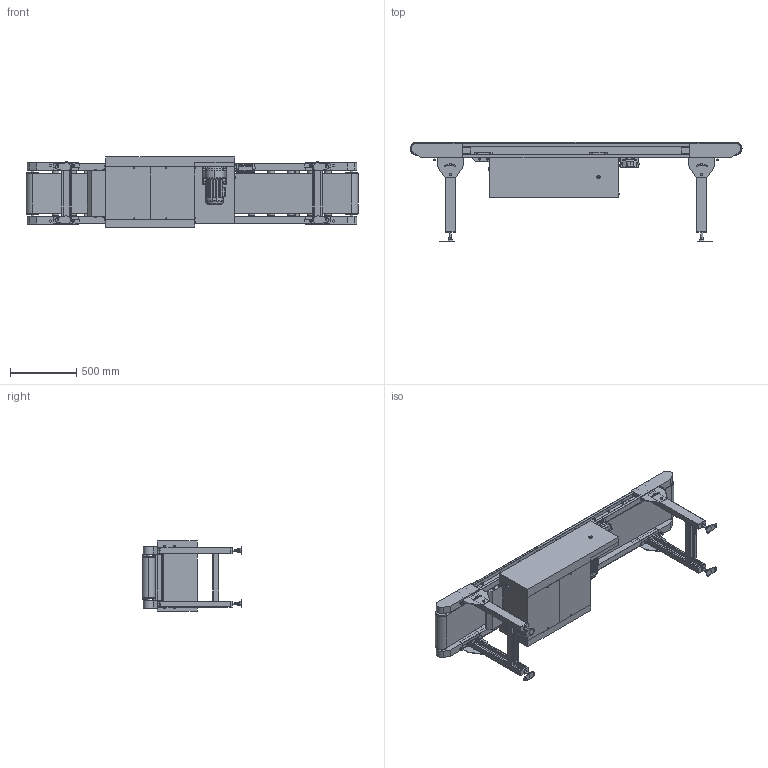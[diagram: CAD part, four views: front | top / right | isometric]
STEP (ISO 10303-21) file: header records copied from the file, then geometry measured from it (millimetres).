
FILE_DESCRIPTION( (''), '2;1');
FILE_NAME ('MUB1C-UD-3-075-300-250-L-K-50S.stp','2025-02-17T15:31:44',(''),(''),'spGate 20.6.2 (****-****-****-****)','','');
FILE_SCHEMA (('AUTOMOTIVE_DESIGN'));
Length unit declared in the file: millimetre
Products named in the file (43): NewModel; TEMP_X_T-prt0; TEMP_X_T-prt1; TEMP_X_T-prt2; TEMP_X_T-prt3; TEMP_X_T-prt4; TEMP_X_T-prt5; TEMP_X_T-prt6; TEMP_X_T-prt7; TEMP_X_T-prt8; TEMP_X_T-prt9; TEMP_X_T-prt10; TEMP_X_T-prt11; TEMP_X_T-prt12; TEMP_X_T-prt13; TEMP_X_T-prt14; TEMP_X_T-prt15; TEMP_X_T-prt16; TEMP_X_T-prt17; TEMP_X_T-prt18; TEMP_X_T-prt19; TEMP_X_T-prt20; TEMP_X_T-prt21; TEMP_X_T-prt22; TEMP_X_T-prt23; TEMP_X_T-prt24; TEMP_X_T-prt25; TEMP_X_T-prt26; TEMP_X_T-prt27; TEMP_X_T-prt28; TEMP_X_T-prt29; TEMP_X_T-prt30; TEMP_X_T-prt31; TEMP_X_T-prt32; TEMP_X_T-prt33; TEMP_X_T-prt34; TEMP_X_T-prt35; TEMP_X_T-prt36; TEMP_X_T-prt37; TEMP_X_T-prt38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
Assembly tree (42 placements, depth 2):
  NewModel
    TEMP_X_T-prt0
    TEMP_X_T-prt1
    TEMP_X_T-prt2
    TEMP_X_T-prt3
    TEMP_X_T-prt4
    TEMP_X_T-prt5
    TEMP_X_T-prt6
    TEMP_X_T-prt7
    TEMP_X_T-prt8
    TEMP_X_T-prt9
    TEMP_X_T-prt10
    TEMP_X_T-prt11
    TEMP_X_T-prt12
    TEMP_X_T-prt13
    TEMP_X_T-prt14
    TEMP_X_T-prt15
    TEMP_X_T-prt16
    TEMP_X_T-prt17
    TEMP_X_T-prt18
    TEMP_X_T-prt19
    TEMP_X_T-prt20
    TEMP_X_T-prt21
    TEMP_X_T-prt22
    TEMP_X_T-prt23
    TEMP_X_T-prt24
    TEMP_X_T-prt25
    TEMP_X_T-prt26
    TEMP_X_T-prt27
    TEMP_X_T-prt28
    TEMP_X_T-prt29
    TEMP_X_T-prt30
    TEMP_X_T-prt31
    TEMP_X_T-prt32
    TEMP_X_T-prt33
    TEMP_X_T-prt34
    TEMP_X_T-prt35
    TEMP_X_T-prt36
    TEMP_X_T-prt37
    TEMP_X_T-prt38
    TEMP_X_T-prt39
    TEMP_X_T-prt40
    TEMP_X_T-prt41
Bounding box: 2509.76 x 755 x 530 mm (x, y, z)
Volume: 240927880.9 mm3; surface area: 10155466.2 mm2
Topology: 42 solids, 42 shells, 2351 faces, 5943 edges, 3838 vertices
Faces by surface type: plane 1799, cylinder 457, bspline 95
Entity records: 120878 total; most frequent: CARTESIAN_POINT 15237, ORIENTED_EDGE 11882, DIRECTION 11372, COLOUR_RGB 8334, PRESENTATION_STYLE_ASSIGNMENT 8334, STYLED_ITEM 8334, EDGE_CURVE 5941, DRAUGHTING_PRE_DEFINED_CURVE_FONT 5941
